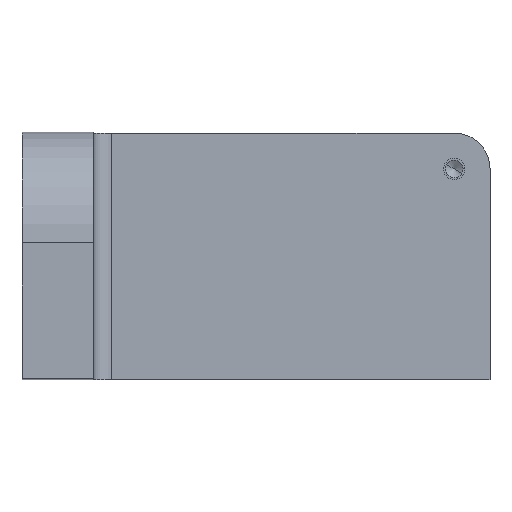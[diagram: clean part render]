
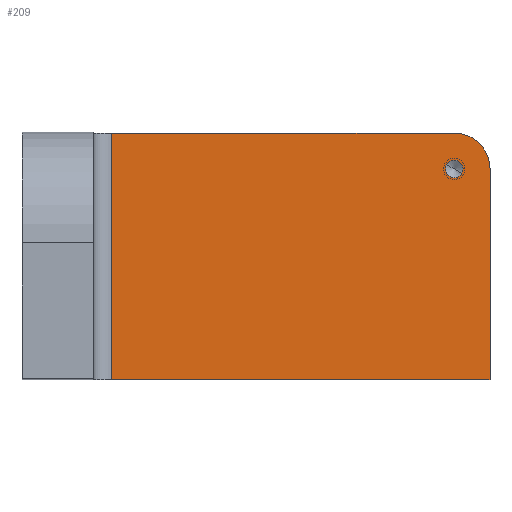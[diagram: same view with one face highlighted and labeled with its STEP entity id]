
A CAD part, top view. The second image highlights one B-rep face of the part: STEP entity #209.
In plain terms, the highlighted planar face has unit normal (0, 0, 1).
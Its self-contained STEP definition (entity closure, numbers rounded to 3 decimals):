
#144=CARTESIAN_POINT('Axis2P3D Location',(0.,0.,20.)) ;
#149=CARTESIAN_POINT('Line Origine',(78.,0.,20.)) ;
#153=CARTESIAN_POINT('Vertex',(25.,0.,20.)) ;
#155=CARTESIAN_POINT('Vertex',(131.,0.,20.)) ;
#158=CARTESIAN_POINT('Line Origine',(131.,29.5,20.)) ;
#162=CARTESIAN_POINT('Vertex',(131.,59.,20.)) ;
#165=CARTESIAN_POINT('Axis2P3D Location',(121.,59.,20.)) ;
#169=CARTESIAN_POINT('Vertex',(121.,69.,20.)) ;
#172=CARTESIAN_POINT('Line Origine',(73.,69.,20.)) ;
#176=CARTESIAN_POINT('Vertex',(25.,69.,20.)) ;
#179=CARTESIAN_POINT('Line Origine',(25.,34.5,20.)) ;
#191=CARTESIAN_POINT('Axis2P3D Location',(121.,59.,20.)) ;
#195=CARTESIAN_POINT('Vertex',(118.842,60.179,20.)) ;
#197=CARTESIAN_POINT('Vertex',(123.158,57.821,20.)) ;
#200=CARTESIAN_POINT('Axis2P3D Location',(121.,59.,20.)) ;
#145=DIRECTION('Axis2P3D Direction',(0.,0.,1.)) ;
#146=DIRECTION('Axis2P3D XDirection',(1.,0.,0.)) ;
#150=DIRECTION('Vector Direction',(1.,0.,0.)) ;
#159=DIRECTION('Vector Direction',(0.,1.,0.)) ;
#166=DIRECTION('Axis2P3D Direction',(0.,0.,1.)) ;
#173=DIRECTION('Vector Direction',(-1.,0.,0.)) ;
#180=DIRECTION('Vector Direction',(0.,-1.,0.)) ;
#192=DIRECTION('Axis2P3D Direction',(0.,0.,1.)) ;
#201=DIRECTION('Axis2P3D Direction',(0.,0.,1.)) ;
#147=AXIS2_PLACEMENT_3D('Plane Axis2P3D',#144,#145,#146) ;
#167=AXIS2_PLACEMENT_3D('Circle Axis2P3D',#165,#166,$) ;
#193=AXIS2_PLACEMENT_3D('Circle Axis2P3D',#191,#192,$) ;
#202=AXIS2_PLACEMENT_3D('Circle Axis2P3D',#200,#201,$) ;
#185=ORIENTED_EDGE('',*,*,#157,.T.) ;
#186=ORIENTED_EDGE('',*,*,#164,.T.) ;
#187=ORIENTED_EDGE('',*,*,#171,.T.) ;
#188=ORIENTED_EDGE('',*,*,#178,.T.) ;
#189=ORIENTED_EDGE('',*,*,#183,.F.) ;
#206=ORIENTED_EDGE('',*,*,#199,.F.) ;
#207=ORIENTED_EDGE('',*,*,#204,.F.) ;
#208=FACE_BOUND('',#205,.T.) ;
#151=VECTOR('Line Direction',#150,1.) ;
#160=VECTOR('Line Direction',#159,1.) ;
#174=VECTOR('Line Direction',#173,1.) ;
#181=VECTOR('Line Direction',#180,1.) ;
#209=ADVANCED_FACE('PartBody',(#190,#208),#148,.T.) ;
#168=CIRCLE('generated circle',#167,10.) ;
#194=CIRCLE('generated circle',#193,2.459) ;
#203=CIRCLE('generated circle',#202,2.459) ;
#157=EDGE_CURVE('',#154,#156,#152,.T.) ;
#164=EDGE_CURVE('',#156,#163,#161,.T.) ;
#171=EDGE_CURVE('',#163,#170,#168,.T.) ;
#178=EDGE_CURVE('',#170,#177,#175,.T.) ;
#183=EDGE_CURVE('',#154,#177,#182,.F.) ;
#199=EDGE_CURVE('',#196,#198,#194,.T.) ;
#204=EDGE_CURVE('',#198,#196,#203,.T.) ;
#184=EDGE_LOOP('',(#185,#186,#187,#188,#189)) ;
#205=EDGE_LOOP('',(#206,#207)) ;
#190=FACE_OUTER_BOUND('',#184,.T.) ;
#152=LINE('Line',#149,#151) ;
#161=LINE('Line',#158,#160) ;
#175=LINE('Line',#172,#174) ;
#182=LINE('Line',#179,#181) ;
#148=PLANE('',#147) ;
#154=VERTEX_POINT('',#153) ;
#156=VERTEX_POINT('',#155) ;
#163=VERTEX_POINT('',#162) ;
#170=VERTEX_POINT('',#169) ;
#177=VERTEX_POINT('',#176) ;
#196=VERTEX_POINT('',#195) ;
#198=VERTEX_POINT('',#197) ;
